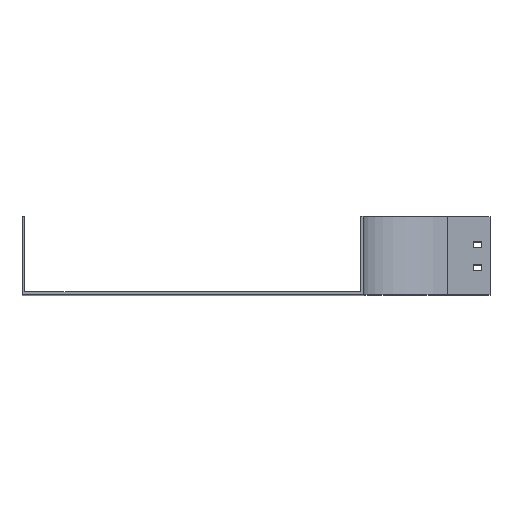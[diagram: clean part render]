
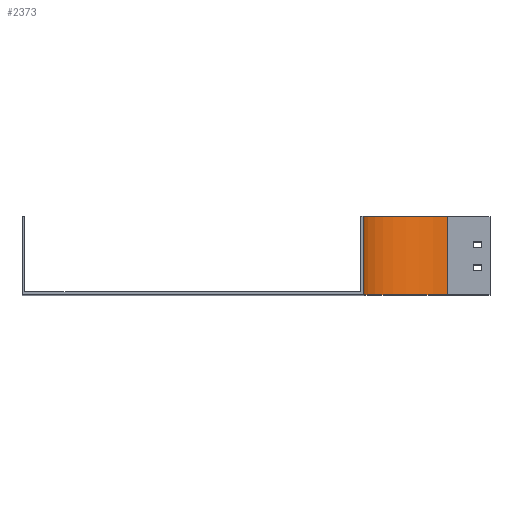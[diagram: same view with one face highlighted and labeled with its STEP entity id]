
A CAD part, top view. The second image highlights one B-rep face of the part: STEP entity #2373.
In plain terms, the highlighted cylindrical face has radius 100 mm (diameter 200 mm), a partial arc.
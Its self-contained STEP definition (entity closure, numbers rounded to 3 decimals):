
#32 = CARTESIAN_POINT ( 'NONE',  ( 0., 92.5, 0. ) ) ;
#82 = CARTESIAN_POINT ( 'NONE',  ( -100., 92.5, 0. ) ) ;
#196 = VECTOR ( 'NONE', #2224, 1000. ) ;
#245 = VECTOR ( 'NONE', #959, 1000. ) ;
#257 = DIRECTION ( 'NONE',  ( 0., 0., -1. ) ) ;
#285 = DIRECTION ( 'NONE',  ( 0., 0., -1. ) ) ;
#432 = CYLINDRICAL_SURFACE ( 'NONE', #893, 100. ) ;
#454 = DIRECTION ( 'NONE',  ( 0., -1., 0. ) ) ;
#530 = CIRCLE ( 'NONE', #2168, 100. ) ;
#569 = VERTEX_POINT ( 'NONE', #2693 ) ;
#653 = ORIENTED_EDGE ( 'NONE', *, *, #1381, .T. ) ;
#893 = AXIS2_PLACEMENT_3D ( 'NONE', #32, #2137, #257 ) ;
#959 = DIRECTION ( 'NONE',  ( 0., -1., 0. ) ) ;
#1154 = ORIENTED_EDGE ( 'NONE', *, *, #2413, .F. ) ;
#1272 = CARTESIAN_POINT ( 'NONE',  ( 0., 0., 0. ) ) ;
#1303 = CIRCLE ( 'NONE', #2434, 100. ) ;
#1381 = EDGE_CURVE ( 'NONE', #569, #1565, #530, .T. ) ;
#1397 = CARTESIAN_POINT ( 'NONE',  ( 0., 92.5, -100. ) ) ;
#1540 = EDGE_CURVE ( 'NONE', #2230, #1565, #2500, .T. ) ;
#1565 = VERTEX_POINT ( 'NONE', #2665 ) ;
#1572 = LINE ( 'NONE', #1585, #245 ) ;
#1585 = CARTESIAN_POINT ( 'NONE',  ( -100., 92.5, 0. ) ) ;
#1706 = EDGE_CURVE ( 'NONE', #2501, #569, #1572, .T. ) ;
#1885 = DIRECTION ( 'NONE',  ( 0., 0., -1. ) ) ;
#2137 = DIRECTION ( 'NONE',  ( 0., -1., 0. ) ) ;
#2139 = EDGE_LOOP ( 'NONE', ( #653, #2221, #1154, #2228 ) ) ;
#2168 = AXIS2_PLACEMENT_3D ( 'NONE', #1272, #454, #1885 ) ;
#2221 = ORIENTED_EDGE ( 'NONE', *, *, #1540, .F. ) ;
#2224 = DIRECTION ( 'NONE',  ( 0., -1., 0. ) ) ;
#2228 = ORIENTED_EDGE ( 'NONE', *, *, #1706, .T. ) ;
#2230 = VERTEX_POINT ( 'NONE', #2598 ) ;
#2373 = ADVANCED_FACE ( 'NONE', ( #2546 ), #432, .F. ) ;
#2392 = DIRECTION ( 'NONE',  ( 0., -1., 0. ) ) ;
#2413 = EDGE_CURVE ( 'NONE', #2501, #2230, #1303, .T. ) ;
#2434 = AXIS2_PLACEMENT_3D ( 'NONE', #2458, #2392, #285 ) ;
#2458 = CARTESIAN_POINT ( 'NONE',  ( 0., 92.5, 0. ) ) ;
#2500 = LINE ( 'NONE', #1397, #196 ) ;
#2501 = VERTEX_POINT ( 'NONE', #82 ) ;
#2546 = FACE_OUTER_BOUND ( 'NONE', #2139, .T. ) ;
#2598 = CARTESIAN_POINT ( 'NONE',  ( 0., 92.5, -100. ) ) ;
#2665 = CARTESIAN_POINT ( 'NONE',  ( 0., 0., -100. ) ) ;
#2693 = CARTESIAN_POINT ( 'NONE',  ( -100., 0., 0. ) ) ;
